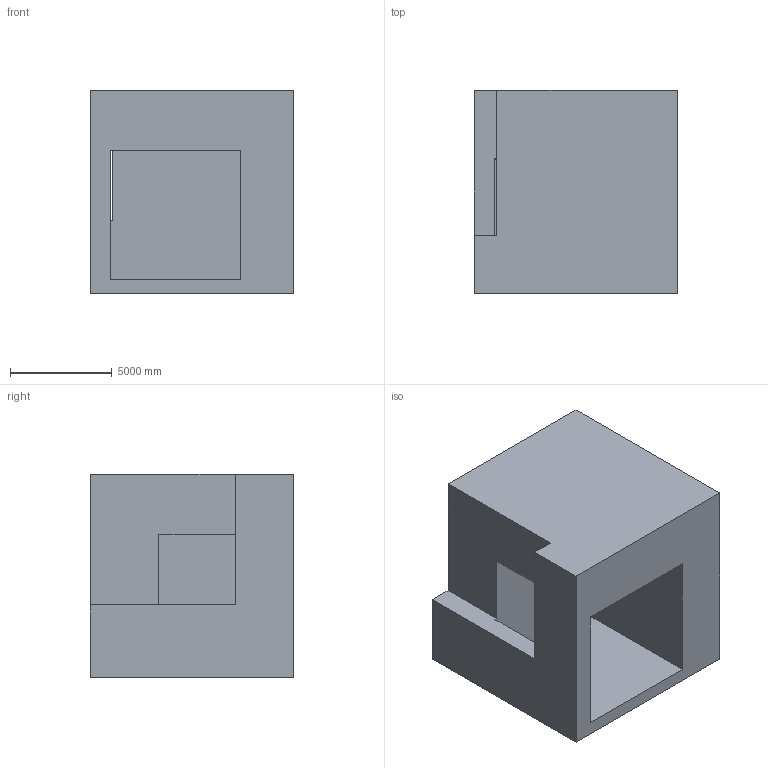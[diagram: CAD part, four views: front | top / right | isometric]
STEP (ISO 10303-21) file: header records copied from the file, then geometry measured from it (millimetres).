
FILE_DESCRIPTION (( 'STEP AP203' ), '1' );
FILE_NAME ('73.STEP', '2022-07-28T13:33:01', ( 'user' ), ( '' ), 'SwSTEP 2.0', 'SolidWorks 2021', '' );
FILE_SCHEMA (( 'CONFIG_CONTROL_DESIGN' ));
Length unit declared in the file: centimetre
Products named in the file (1): 73
Bounding box: 10000 x 10000 x 10000 mm (x, y, z)
Volume: 681123054212.1 mm3; surface area: 741533361.4 mm2
Topology: 1 solids, 1 shells, 14 faces, 39 edges, 26 vertices
Faces by surface type: plane 14
Entity records: 524 total; most frequent: CARTESIAN_POINT 80, ORIENTED_EDGE 78, DIRECTION 69, LINE 39, VECTOR 39, EDGE_CURVE 39, VERTEX_POINT 26, AXIS2_PLACEMENT_3D 15
